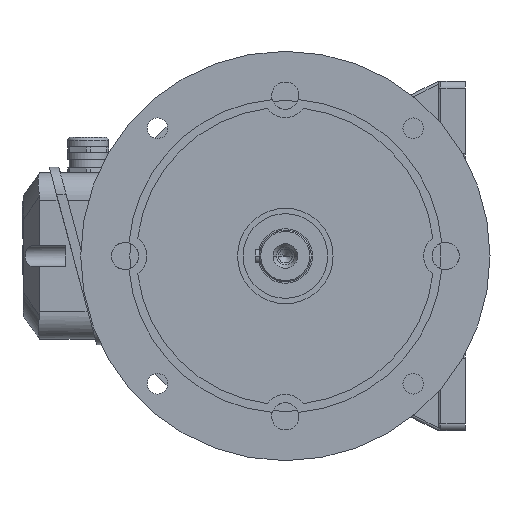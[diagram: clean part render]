
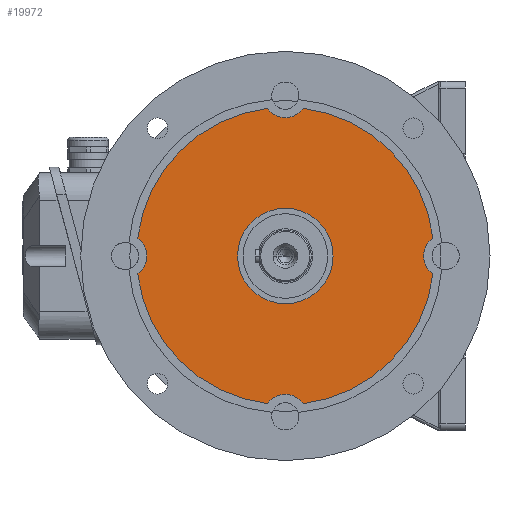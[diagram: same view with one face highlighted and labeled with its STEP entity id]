
A CAD part, left-side view. The second image highlights one B-rep face of the part: STEP entity #19972.
In plain terms, the highlighted planar face has unit normal (-1, 0, 0).
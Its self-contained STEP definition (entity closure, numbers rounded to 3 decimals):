
#8 = CARTESIAN_POINT ( 'NONE',  ( -59.2, 117.5, 0. ) ) ;
#43 = DIRECTION ( 'NONE',  ( 1., 0., 0. ) ) ;
#159 = ORIENTED_EDGE ( 'NONE', *, *, #19433, .F. ) ;
#706 = DIRECTION ( 'NONE',  ( 0., -1., 0. ) ) ;
#824 = DIRECTION ( 'NONE',  ( 1., 0., 0. ) ) ;
#1020 = AXIS2_PLACEMENT_3D ( 'NONE', #29841, #13510, #16360 ) ;
#1111 = CARTESIAN_POINT ( 'NONE',  ( -59.2, 0., 0. ) ) ;
#1244 = CIRCLE ( 'NONE', #26368, 16.1 ) ;
#1488 = ORIENTED_EDGE ( 'NONE', *, *, #15103, .T. ) ;
#2047 = EDGE_LOOP ( 'NONE', ( #30510, #159, #31663, #27582, #14451, #29657, #32396, #3307, #25398 ) ) ;
#2568 = CARTESIAN_POINT ( 'NONE',  ( -59.2, 0., 0. ) ) ;
#2630 = CIRCLE ( 'NONE', #8133, 16.1 ) ;
#2631 = DIRECTION ( 'NONE',  ( 0., -1., 0. ) ) ;
#2659 = CIRCLE ( 'NONE', #12316, 109. ) ;
#2821 = VERTEX_POINT ( 'NONE', #7586 ) ;
#2828 = AXIS2_PLACEMENT_3D ( 'NONE', #15626, #26582, #21233 ) ;
#2990 = CARTESIAN_POINT ( 'NONE',  ( -59.2, 101.4, 0. ) ) ;
#3307 = ORIENTED_EDGE ( 'NONE', *, *, #13681, .T. ) ;
#3317 = CARTESIAN_POINT ( 'NONE',  ( -59.2, -117.5, 0. ) ) ;
#4138 = CIRCLE ( 'NONE', #8803, 109. ) ;
#4656 = DIRECTION ( 'NONE',  ( 1., 0., 0. ) ) ;
#4898 = CARTESIAN_POINT ( 'NONE',  ( -59.2, -108.204, -13.145 ) ) ;
#5081 = CARTESIAN_POINT ( 'NONE',  ( -59.2, -108.204, 13.145 ) ) ;
#5208 = EDGE_CURVE ( 'NONE', #32504, #8020, #10702, .T. ) ;
#5625 = DIRECTION ( 'NONE',  ( 0., 1., 0. ) ) ;
#5862 = DIRECTION ( 'NONE',  ( 1., 0., 0. ) ) ;
#6842 = CIRCLE ( 'NONE', #2828, 109. ) ;
#6909 = CARTESIAN_POINT ( 'NONE',  ( -59.2, 0., -117.5 ) ) ;
#7090 = CIRCLE ( 'NONE', #29574, 16.1 ) ;
#7138 = CIRCLE ( 'NONE', #32350, 35. ) ;
#7390 = CARTESIAN_POINT ( 'NONE',  ( -59.2, 0., 0. ) ) ;
#7586 = CARTESIAN_POINT ( 'NONE',  ( -59.2, -35., 0. ) ) ;
#8020 = VERTEX_POINT ( 'NONE', #15409 ) ;
#8133 = AXIS2_PLACEMENT_3D ( 'NONE', #3317, #824, #706 ) ;
#8200 = DIRECTION ( 'NONE',  ( 0., -1., 0. ) ) ;
#8762 = CARTESIAN_POINT ( 'NONE',  ( -59.2, 108.204, 13.145 ) ) ;
#8803 = AXIS2_PLACEMENT_3D ( 'NONE', #2568, #16069, #35208 ) ;
#8986 = DIRECTION ( 'NONE',  ( 1., 0., 0. ) ) ;
#10668 = CARTESIAN_POINT ( 'NONE',  ( -59.2, 0., 0. ) ) ;
#10702 = CIRCLE ( 'NONE', #1020, 109. ) ;
#12316 = AXIS2_PLACEMENT_3D ( 'NONE', #10668, #5862, #5625 ) ;
#12489 = EDGE_CURVE ( 'NONE', #32504, #22380, #27753, .T. ) ;
#12909 = DIRECTION ( 'NONE',  ( 0., 1., 0. ) ) ;
#13510 = DIRECTION ( 'NONE',  ( 1., 0., 0. ) ) ;
#13681 = EDGE_CURVE ( 'NONE', #13780, #8020, #1244, .T. ) ;
#13780 = VERTEX_POINT ( 'NONE', #2990 ) ;
#14451 = ORIENTED_EDGE ( 'NONE', *, *, #22918, .T. ) ;
#14716 = CARTESIAN_POINT ( 'NONE',  ( -59.2, 13.145, 108.204 ) ) ;
#14900 = PLANE ( 'NONE',  #26260 ) ;
#14970 = CARTESIAN_POINT ( 'NONE',  ( -59.2, -13.145, 108.204 ) ) ;
#15103 = EDGE_CURVE ( 'NONE', #2821, #31215, #7138, .T. ) ;
#15149 = AXIS2_PLACEMENT_3D ( 'NONE', #27059, #16217, #8200 ) ;
#15409 = CARTESIAN_POINT ( 'NONE',  ( -59.2, 108.204, -13.145 ) ) ;
#15626 = CARTESIAN_POINT ( 'NONE',  ( -59.2, 0., 0. ) ) ;
#15672 = EDGE_CURVE ( 'NONE', #19098, #33356, #4138, .T. ) ;
#15889 = DIRECTION ( 'NONE',  ( 1., 0., 0. ) ) ;
#15904 = FACE_BOUND ( 'NONE', #25762, .T. ) ;
#16069 = DIRECTION ( 'NONE',  ( 1., 0., 0. ) ) ;
#16217 = DIRECTION ( 'NONE',  ( 1., 0., 0. ) ) ;
#16360 = DIRECTION ( 'NONE',  ( 0., 1., 0. ) ) ;
#16596 = DIRECTION ( 'NONE',  ( 1., 0., 0. ) ) ;
#16991 = DIRECTION ( 'NONE',  ( 0., 1., 0. ) ) ;
#18093 = EDGE_CURVE ( 'NONE', #31215, #2821, #35260, .T. ) ;
#18895 = FACE_OUTER_BOUND ( 'NONE', #2047, .T. ) ;
#19098 = VERTEX_POINT ( 'NONE', #8762 ) ;
#19433 = EDGE_CURVE ( 'NONE', #32319, #22380, #2659, .T. ) ;
#19684 = CARTESIAN_POINT ( 'NONE',  ( -59.2, 13.145, -108.204 ) ) ;
#19972 = ADVANCED_FACE ( 'NONE', ( #18895, #15904 ), #14900, .T. ) ;
#21233 = DIRECTION ( 'NONE',  ( 0., 1., 0. ) ) ;
#21876 = DIRECTION ( 'NONE',  ( 0., -1., 0. ) ) ;
#22380 = VERTEX_POINT ( 'NONE', #32977 ) ;
#22748 = DIRECTION ( 'NONE',  ( -1., 0., 0. ) ) ;
#22918 = EDGE_CURVE ( 'NONE', #35363, #33356, #34117, .T. ) ;
#25398 = ORIENTED_EDGE ( 'NONE', *, *, #5208, .F. ) ;
#25436 = EDGE_CURVE ( 'NONE', #35363, #28007, #6842, .T. ) ;
#25762 = EDGE_LOOP ( 'NONE', ( #34389, #1488 ) ) ;
#26260 = AXIS2_PLACEMENT_3D ( 'NONE', #28128, #22748, #34131 ) ;
#26368 = AXIS2_PLACEMENT_3D ( 'NONE', #8, #16596, #2631 ) ;
#26582 = DIRECTION ( 'NONE',  ( 1., 0., 0. ) ) ;
#27059 = CARTESIAN_POINT ( 'NONE',  ( -59.2, 0., 117.5 ) ) ;
#27582 = ORIENTED_EDGE ( 'NONE', *, *, #25436, .F. ) ;
#27753 = CIRCLE ( 'NONE', #29286, 16.1 ) ;
#28007 = VERTEX_POINT ( 'NONE', #5081 ) ;
#28128 = CARTESIAN_POINT ( 'NONE',  ( -59.2, 35., 0. ) ) ;
#29286 = AXIS2_PLACEMENT_3D ( 'NONE', #6909, #4656, #34427 ) ;
#29574 = AXIS2_PLACEMENT_3D ( 'NONE', #35310, #43, #21876 ) ;
#29611 = EDGE_CURVE ( 'NONE', #19098, #13780, #7090, .T. ) ;
#29657 = ORIENTED_EDGE ( 'NONE', *, *, #15672, .F. ) ;
#29841 = CARTESIAN_POINT ( 'NONE',  ( -59.2, 0., 0. ) ) ;
#30510 = ORIENTED_EDGE ( 'NONE', *, *, #12489, .T. ) ;
#31215 = VERTEX_POINT ( 'NONE', #32123 ) ;
#31663 = ORIENTED_EDGE ( 'NONE', *, *, #32552, .T. ) ;
#32123 = CARTESIAN_POINT ( 'NONE',  ( -59.2, 35., 0. ) ) ;
#32319 = VERTEX_POINT ( 'NONE', #4898 ) ;
#32350 = AXIS2_PLACEMENT_3D ( 'NONE', #7390, #15889, #12909 ) ;
#32396 = ORIENTED_EDGE ( 'NONE', *, *, #29611, .T. ) ;
#32504 = VERTEX_POINT ( 'NONE', #19684 ) ;
#32552 = EDGE_CURVE ( 'NONE', #32319, #28007, #2630, .T. ) ;
#32977 = CARTESIAN_POINT ( 'NONE',  ( -59.2, -13.145, -108.204 ) ) ;
#33344 = AXIS2_PLACEMENT_3D ( 'NONE', #1111, #8986, #16991 ) ;
#33356 = VERTEX_POINT ( 'NONE', #14716 ) ;
#34117 = CIRCLE ( 'NONE', #15149, 16.1 ) ;
#34131 = DIRECTION ( 'NONE',  ( 0., 0., 1. ) ) ;
#34389 = ORIENTED_EDGE ( 'NONE', *, *, #18093, .T. ) ;
#34427 = DIRECTION ( 'NONE',  ( 0., -1., 0. ) ) ;
#35208 = DIRECTION ( 'NONE',  ( 0., 1., 0. ) ) ;
#35260 = CIRCLE ( 'NONE', #33344, 35. ) ;
#35310 = CARTESIAN_POINT ( 'NONE',  ( -59.2, 117.5, 0. ) ) ;
#35363 = VERTEX_POINT ( 'NONE', #14970 ) ;
